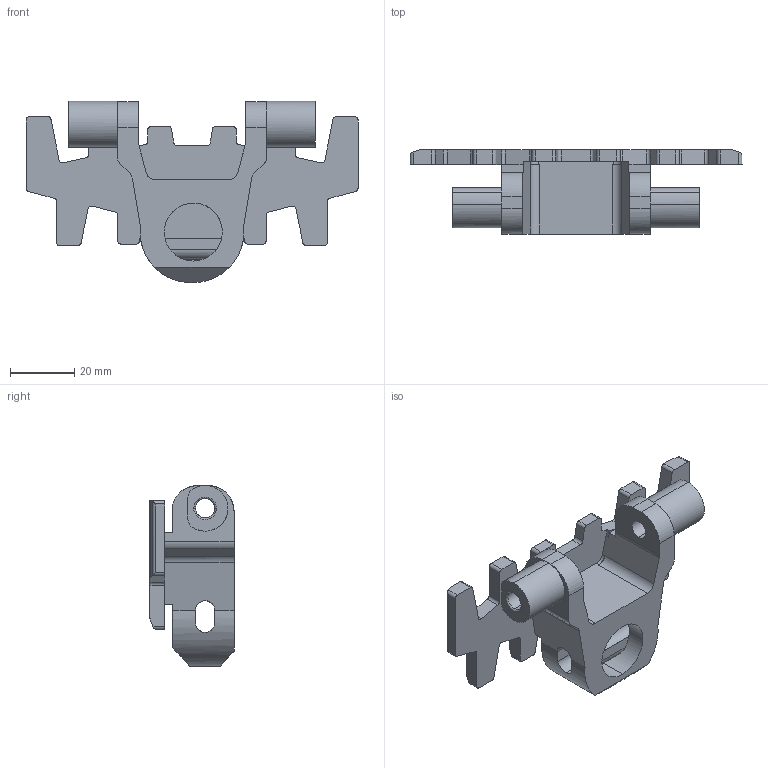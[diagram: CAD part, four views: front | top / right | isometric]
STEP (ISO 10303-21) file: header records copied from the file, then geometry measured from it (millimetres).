
FILE_DESCRIPTION (( 'STEP AP203' ), '1' );
FILE_NAME ('FCPC-5.STEP', '2007-12-12T08:07:45', ( ' ' ), ( ' ' ), 'SwSTEP 2.0', 'SolidWorks 2008', '' );
FILE_SCHEMA (( 'CONFIG_CONTROL_DESIGN' ));
Length unit declared in the file: millimetre
Products named in the file (1): FCPC-5
Bounding box: 103 x 26.1 x 56.18 mm (x, y, z)
Volume: 35070 mm3; surface area: 16580.5 mm2
Topology: 1 solids, 1 shells, 214 faces, 646 edges, 431 vertices
Faces by surface type: cylinder 103, plane 101, bspline 10
Entity records: 9439 total; most frequent: CARTESIAN_POINT 4005, ORIENTED_EDGE 1292, DIRECTION 865, EDGE_CURVE 646, VERTEX_POINT 431, VECTOR 373, LINE 373, AXIS2_PLACEMENT_3D 246
